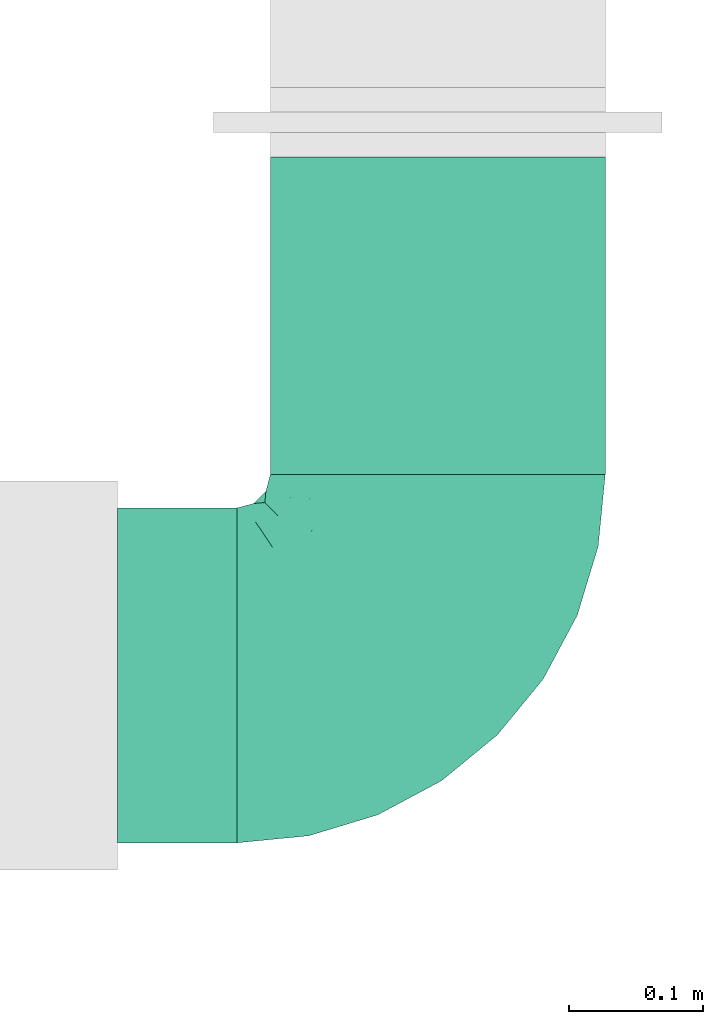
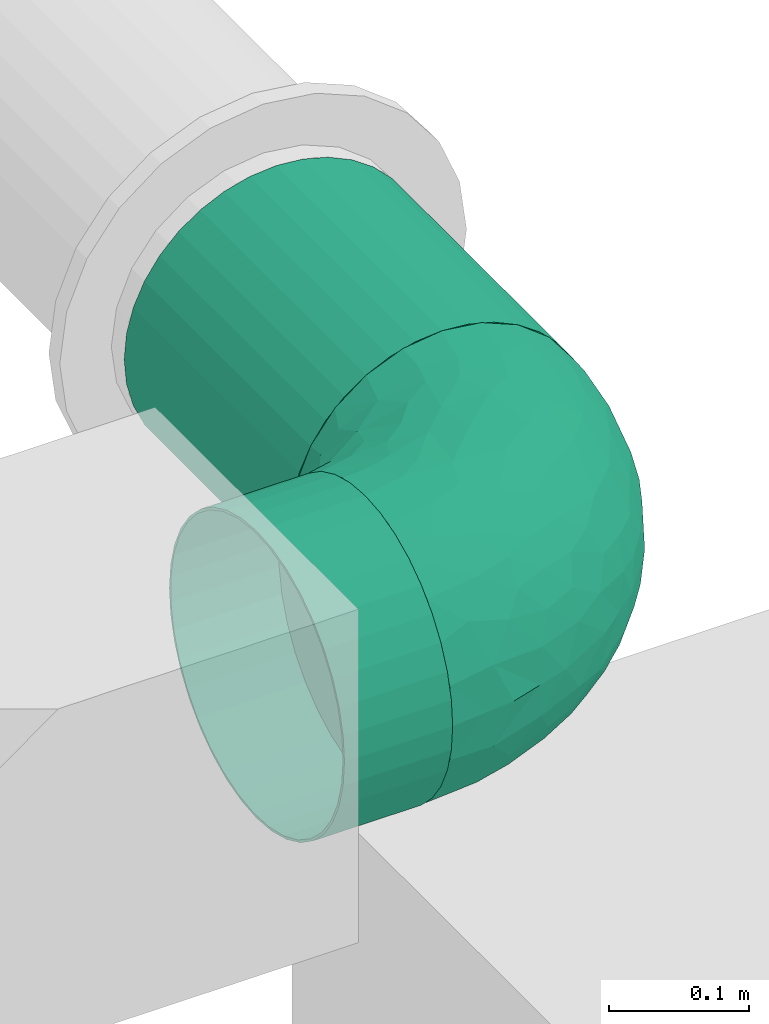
# One storey, part 16 of 31: 2 flow segments, 1 flow fitting.
"""IFC2X3 building model written with IfcOpenShell, lengths in millimetres."""

from ifc_helpers import new_model, entity, si_unit, converted_unit, derived_unit, direction, frame, origin_with_axes, origin_2d_with_axis, place, context, subcontext, project, spatial, hollow_circle, extrude, open_shell, surface_model, source, transform, mapped, type_object, element, save


model = new_model("IFC2X3")

# Units and contexts
model_context = context("Model", 3, precision=0.01, world=frame((0.0, 4.29681676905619e-09, 0.0)), true_north=direction((4.01073788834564e-13, 1.0)))
plan_context = context("Plan", 3, precision=0.01, world=frame((0.0, 4.29681676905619e-09, 0.0)), true_north=direction((4.01073788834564e-13, 1.0)))
body_context = subcontext(model_context, "Body", "Model", "MODEL_VIEW")
ifc_project = project(units=[converted_unit("PLANEANGLEUNIT", "DEGREE", entity("IfcPositiveLengthMeasure", 0.0174532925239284), si_unit("PLANEANGLEUNIT", "RADIAN"), dimensions=[0, 0, 0, 0, 0, 0, 0]), si_unit("AREAUNIT", "SQUARE_METRE"), si_unit("LENGTHUNIT", "METRE", prefix="MILLI"), si_unit("MASSUNIT", "GRAM", prefix="KILO"), si_unit("POWERUNIT", "WATT"), si_unit("PRESSUREUNIT", "PASCAL", prefix="KILO"), si_unit("FORCEUNIT", "NEWTON", prefix="KILO"), si_unit("ELECTRICVOLTAGEUNIT", "VOLT"), si_unit("ELECTRICCURRENTUNIT", "AMPERE"), si_unit("THERMODYNAMICTEMPERATUREUNIT", "DEGREE_CELSIUS"), si_unit("TIMEUNIT", "SECOND"), si_unit("VOLUMEUNIT", "CUBIC_METRE"), derived_unit("LINEARVELOCITYUNIT", [(si_unit("LENGTHUNIT", "METRE"), 1), (si_unit("TIMEUNIT", "SECOND"), -1)]), derived_unit("VOLUMETRICFLOWRATEUNIT", [(si_unit("VOLUMEUNIT", "CUBIC_METRE"), 1), (si_unit("TIMEUNIT", "SECOND"), -1)]), derived_unit("THERMALTRANSMITTANCEUNIT", [(si_unit("POWERUNIT", "WATT"), 1), (si_unit("THERMODYNAMICTEMPERATUREUNIT", "KELVIN"), -1), (si_unit("AREAUNIT", "SQUARE_METRE"), -1)]), derived_unit("SOUNDPRESSUREUNIT", [(si_unit("PRESSUREUNIT", "PASCAL"), 1)])], contexts=[model_context, plan_context])

# Site, building, storey
site_placement = place(None, frame((0.0, -4.29681676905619e-09, 0.0), z_axis=(0.0, 0.0, 1.0), x_axis=(1.0, 0.0, 0.0)))
site = spatial("IfcSite", under=ifc_project, at=site_placement, CompositionType="ELEMENT")
building_placement = place(site_placement, frame((0.0, 4.29681676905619e-09, 0.0), z_axis=(0.0, 0.0, 1.0), x_axis=(1.0, 0.0, 0.0)))
building = spatial("IfcBuilding", under=site, at=building_placement, Name="mc-building", CompositionType="ELEMENT")
storey_placement = place(building_placement, frame((0.0, 0.0, 210900.0), z_axis=(0.0, 0.0, 1.0), x_axis=(1.0, 0.0, 0.0)))
storey = spatial("IfcBuildingStorey", under=building, at=storey_placement, Name="Nivå F", CompositionType="ELEMENT", Elevation=210900.0)

# Flow fitting
duct_fitting_type = type_object("IfcDuctFittingType", Name="magicirc_elbow_short_001", PredefinedType="BEND")
shared_shape_1 = source(origin_with_axes(), body_context, "Body", "SurfaceModel", [
    surface_model("IfcShellBasedSurfaceModel", [(-150.0, 0.0, -125.0), (-150.0, -32.35238, -120.74073), (-150.0, 32.35238, -120.74073), (-150.0, 62.5, -108.25318), (-150.0, 88.38835, -88.38835), (-150.0, 108.25318, -62.5), (-150.0, 120.74073, -32.35238), (-150.0, -62.5, -108.25318), (-150.0, -88.38835, -88.38835), (-150.0, -125.0, 0.0), (-150.0, -108.25318, -62.5), (-150.0, -120.74073, -32.35238), (-150.0, 125.0, 0.0), (-150.0, -120.74073, 32.35238), (-150.0, 120.74073, 32.35238), (-150.0, 108.25318, 62.5), (-150.0, 32.35238, 120.74073), (-150.0, 62.5, 108.25318), (-150.0, 88.38835, 88.38835), (-150.0, -88.38835, 88.38835), (-150.0, -108.25318, 62.5), (-150.0, -32.35238, 120.74073), (-150.0, 0.0, 125.0), (-150.0, -62.5, 108.25318), (-32.35238, 150.0, -120.74073), (88.38835, 150.0, -88.38835), (0.0, 150.0, -125.0), (-88.38835, 150.0, -88.38835), (-62.5, 150.0, -108.25318), (-108.25318, 150.0, -62.5), (-120.74073, 150.0, -32.35238), (88.38835, 150.0, 88.38835), (32.35238, 150.0, -120.74073), (62.5, 150.0, -108.25318), (120.74073, 150.0, -32.35238), (108.25318, 150.0, -62.5), (125.0, 150.0, 0.0), (-125.0, 150.0, 0.0), (-120.74073, 150.0, 32.35238), (-32.35238, 150.0, 120.74073), (-108.25318, 150.0, 62.5), (-88.38835, 150.0, 88.38835), (-62.5, 150.0, 108.25318), (120.74073, 150.0, 32.35238), (108.25318, 150.0, 62.5), (62.5, 150.0, 108.25318), (0.0, 150.0, 125.0), (32.35238, 150.0, 120.74073), (3.43621, -49.5686, 72.62973), (-18.36868, -48.37229, 88.70337), (-18.83692, -66.65046, 70.44253), (-111.90441, -117.21345, 35.28889), (-118.95041, -121.94188, 0.0), (25.86906, 108.55436, 121.17479), (-75.7772, -90.32158, 72.9261), (-74.87608, -74.03385, 90.43438), (-106.18274, -83.07991, 89.59712), (-96.35016, -119.71595, 0.0), (-46.47779, 70.62109, 123.46212), (-76.11794, 76.11794, 116.41901), (-69.40624, 48.8823, 123.2752), (-124.4932, -102.85852, 69.13391), (61.55426, -23.61809, 0.0), (70.72079, -10.51336, 22.73937), (52.73629, -32.74631, 22.58023), (-124.77817, -54.06971, 111.94259), (-90.65624, -57.4337, 106.30719), (32.14495, -52.26832, 26.33949), (-0.28194, -75.27927, 33.26458), (23.61809, -61.55426, 0.0), (-95.68999, 131.65378, 83.88297), (-69.77814, 120.80048, 106.99559), (-67.0959, -108.40643, 29.86559), (-70.55611, -111.89141, 0.0), (-44.76206, -104.06687, 0.0), (-59.72745, 94.86231, 116.91683), (-108.55438, -25.86905, 121.17479), (54.06971, 124.77816, 111.94259), (-27.02672, -92.24399, 28.66038), (-115.00313, 7.3209, 124.96177), (37.68395, -37.68396, 47.97943), (-29.53309, 7.28525, 119.4722), (-3.39232, -9.52602, 105.74117), (0.96712, 29.12319, 117.22512), (-136.08989, 114.55349, 55.66419), (-123.43379, 95.73566, 87.17875), (-119.07435, 119.07435, 65.82439), (-129.09162, 129.09162, 33.48663), (-137.5, 128.34936, 0.0), (-121.4114, 69.81738, 106.84783), (-150.0, 47.42619, 114.49695), (-128.63564, 33.72653, 120.89263), (-27.58141, -83.17169, 52.68646), (-47.99632, -78.87458, 74.22581), (-54.84475, -96.13379, 51.52422), (103.28598, 90.85645, 59.18699), (90.74371, 74.5558, 71.84785), (96.43496, 48.91625, 45.66343), (-41.1276, 38.26732, 124.85571), (102.85852, 124.4932, 69.13391), (83.07991, 106.18274, 89.59712), (-94.00852, 107.9804, 96.05098), (74.96021, 76.43193, 90.06036), (117.21345, 111.90441, 35.28889), (121.94188, 118.95041, 0.0), (-47.30293, -61.16044, 91.82798), (78.87458, 47.99631, 74.22581), (76.94281, 15.76685, 52.00246), (-101.88517, 84.02177, 104.66367), (110.18665, 71.48082, 28.20521), (111.89141, 70.55611, 0.0), (55.40218, 7.25052, 74.8198), (24.63024, -24.60151, 78.91029), (58.21029, -16.89277, 44.41752), (57.4337, 90.65623, 106.30718), (30.02154, 57.30162, 113.4468), (-128.34936, 137.5, 0.0), (-73.97464, 6.61086, 124.39367), (-33.52256, 127.66016, 120.99202), (-7.19958, 114.11429, 124.96953), (-18.42999, 93.20127, 124.82066), (14.9991, 81.71173, 121.69074), (-109.70554, 132.7303, 65.99174), (-81.52168, -16.35182, 121.37252), (-56.488, -29.68334, 113.41267), (55.20354, 44.94313, 95.60044), (-90.85645, -103.28598, 59.18699), (-26.43187, -29.68413, 104.83883), (-7.20961, 68.77767, 124.18226), (30.67747, 15.69438, 99.90432), (-47.42619, 150.0, 114.49695), (-107.88822, 38.92177, 121.04182), (-96.15013, 61.71268, 115.9946), (-96.31285, 19.15333, 124.70605), (14.59493, -56.28029, 51.4962), (104.06687, 44.76206, 0.0), (102.01943, 45.4582, 23.12647), (89.00824, 19.09141, 24.82271), (119.71595, 96.35016, 0.0), (-20.99012, -91.36051, 0.0), (78.65415, -2.78181, 0.0), (91.36051, 20.99012, 0.0), (2.78181, -78.65415, 0.0), (44.45436, -44.45436, 0.0), (-38.84807, 105.96939, 121.23578), (-120.80048, 69.77814, -106.99559), (54.06971, 124.77816, -111.94259), (-90.65624, -57.4337, -106.30719), (-124.77817, -54.06971, -111.94259), (-108.55438, -25.86906, -121.17479), (-18.36869, -48.37229, -88.70338), (-18.83692, -66.65046, -70.44253), (-47.30293, -61.16045, -91.82798), (-96.31285, 19.15333, -124.70605), (-73.97463, 6.61086, -124.39367), (-115.00313, 7.3209, -124.96177), (14.9991, 81.71175, -121.69074), (25.86906, 108.55438, -121.17479), (30.02154, 57.30164, -113.44681), (-129.09162, 129.09162, -33.48663), (-95.73566, 123.43379, -87.17875), (-84.02176, 101.88516, -104.66368), (-107.9804, 94.00852, -96.05098), (-0.28194, -75.27927, -33.26458), (-131.65378, 95.68999, -83.88297), (-132.7303, 109.70554, -65.99174), (-107.88822, 38.92177, -121.04182), (-128.63564, 33.72653, -120.89263), (-119.07435, 119.07435, -65.82439), (-111.90441, -117.21345, -35.28889), (-76.11794, 76.11793, -116.41901), (-69.69403, 48.67006, -123.27304), (-95.38125, 59.83873, -116.77822), (-106.18274, -83.07991, -89.59712), (-3.39231, -9.52602, -105.74117), (24.63023, -24.60151, -78.91029), (-54.84475, -96.13379, -51.52422), (-75.7772, -90.32158, -72.9261), (-47.99632, -78.87458, -74.22581), (-124.4932, -102.85852, -69.13391), (30.67749, 15.69438, -99.9043), (0.96713, 29.12319, -117.22511), (-69.81738, 121.4114, -106.84784), (-27.02672, -92.24399, -28.66038), (-67.0959, -108.40643, -29.86559), (78.87458, 47.99631, -74.22581), (96.43495, 48.9163, -45.66349), (76.94285, 15.76686, -52.00241), (37.68395, -37.68396, -47.97943), (58.21029, -16.89277, -44.41752), (52.73629, -32.74631, -22.58023), (-48.07357, 68.7261, -123.44788), (-114.55349, 136.08989, -55.66419), (117.21345, 111.90441, -35.28889), (-7.19958, 114.11428, -124.96953), (-27.58141, -83.17169, -52.68646), (-47.42619, 150.0, -114.49695), (-33.52256, 127.66015, -120.99202), (32.14495, -52.26832, -26.33949), (14.59493, -56.28029, -51.4962), (83.07991, 106.18274, -89.59712), (102.85852, 124.4932, -69.13391), (89.00829, 19.0915, -24.82265), (70.72079, -10.51336, -22.73937), (57.4337, 90.65623, -106.30719), (110.18664, 71.4808, -28.20522), (102.0194, 45.45816, -23.12649), (-90.85645, -103.28598, -59.18699), (90.01217, 76.65037, -73.68876), (73.67235, 74.27652, -90.57836), (-29.53307, 7.28526, -119.4722), (-56.488, -29.68334, -113.41267), (-74.87608, -74.03385, -90.43438), (-81.52167, -16.35182, -121.37252), (-26.43187, -29.68413, -104.83883), (103.28598, 90.85645, -59.18699), (-18.42999, 93.20126, -124.82066), (-38.84807, 105.96939, -121.23578), (55.20355, 44.94317, -95.60045), (-150.0, 47.42619, -114.49695), (55.40223, 7.25057, -74.81978), (-61.71268, 96.15012, -115.9946), (-41.12759, 38.26731, -124.85571), (3.43621, -49.56858, -72.62973), (-7.2096, 68.77766, -124.18226)], [open_shell([[[0, 1, 2]], [[3, 2, 4]], [[1, 5, 2]], [[4, 2, 5]], [[5, 1, 6]], [[7, 8, 1]], [[9, 1, 8]], [[10, 11, 8]], [[9, 8, 11]], [[9, 6, 1]], [[9, 12, 6]], [[12, 13, 14]], [[15, 14, 16]], [[16, 17, 18]], [[15, 16, 18]], [[16, 14, 19]], [[20, 19, 13]], [[19, 14, 13]], [[21, 22, 23]], [[19, 23, 22]], [[19, 22, 16]], [[9, 13, 12]], [[24, 25, 26]], [[27, 24, 28]], [[29, 30, 24]], [[29, 24, 27]], [[24, 31, 25]], [[32, 25, 33]], [[32, 26, 25]], [[25, 34, 35]], [[34, 25, 36]], [[25, 31, 36]], [[24, 30, 37]], [[38, 31, 37]], [[39, 38, 40]], [[41, 42, 39]], [[41, 39, 40]], [[31, 38, 39]], [[43, 31, 44]], [[36, 31, 43]], [[45, 46, 47]], [[46, 45, 31]], [[39, 46, 31]], [[31, 24, 37]], [[48, 49, 50]], [[51, 13, 52]], [[53, 47, 46]], [[54, 55, 56]], [[52, 57, 51]], [[58, 59, 60]], [[20, 61, 19]], [[62, 63, 64]], [[65, 56, 66]], [[67, 68, 69]], [[41, 70, 71]], [[72, 73, 74]], [[59, 58, 75]], [[21, 76, 22]], [[77, 45, 47]], [[23, 19, 56]], [[72, 74, 78]], [[79, 16, 22]], [[76, 21, 65]], [[80, 67, 64]], [[81, 82, 83]], [[84, 85, 86]], [[87, 12, 14]], [[12, 87, 88]], [[18, 17, 89]], [[51, 20, 13]], [[18, 89, 85]], [[17, 90, 91]], [[84, 14, 15]], [[91, 90, 16]], [[92, 93, 94]], [[40, 70, 41]], [[95, 96, 97]], [[83, 98, 81]], [[44, 31, 99]], [[100, 31, 45]], [[86, 85, 101]], [[102, 96, 100]], [[103, 104, 43]], [[66, 55, 105]], [[77, 100, 45]], [[103, 43, 44]], [[97, 106, 107]], [[85, 15, 18]], [[108, 85, 89]], [[85, 84, 15]], [[103, 109, 110]], [[111, 112, 113]], [[114, 53, 115]], [[88, 87, 116]], [[60, 117, 98]], [[116, 87, 37]], [[85, 108, 101]], [[38, 37, 87]], [[71, 118, 42]], [[119, 120, 121]], [[122, 38, 87]], [[70, 122, 101]], [[123, 76, 124]], [[114, 115, 125]], [[119, 53, 46]], [[42, 41, 71]], [[77, 53, 114]], [[72, 78, 94]], [[54, 126, 94]], [[21, 23, 65]], [[124, 76, 66]], [[61, 56, 19]], [[76, 123, 79]], [[93, 105, 55]], [[124, 127, 81]], [[102, 100, 114]], [[99, 100, 95]], [[46, 39, 119]], [[115, 121, 128]], [[128, 83, 115]], [[115, 83, 129]], [[75, 101, 59]], [[118, 39, 130]], [[106, 111, 107]], [[125, 111, 106]], [[131, 89, 17]], [[108, 132, 59]], [[118, 119, 39]], [[119, 118, 120]], [[51, 57, 73]], [[61, 51, 126]], [[99, 103, 44]], [[109, 95, 97]], [[76, 79, 22]], [[133, 79, 117]], [[83, 128, 98]], [[129, 83, 82]], [[128, 120, 58]], [[59, 132, 60]], [[129, 82, 112]], [[125, 115, 129]], [[49, 112, 82]], [[80, 134, 67]], [[127, 49, 82]], [[93, 92, 50]], [[111, 125, 129]], [[125, 106, 102]], [[112, 111, 129]], [[111, 113, 107]], [[98, 117, 81]], [[124, 81, 117]], [[63, 113, 64]], [[135, 109, 136]], [[137, 97, 107]], [[97, 136, 109]], [[110, 138, 103]], [[103, 95, 109]], [[78, 74, 139]], [[73, 72, 51]], [[51, 72, 126]], [[68, 134, 50]], [[72, 94, 126]], [[92, 94, 78]], [[54, 94, 93]], [[63, 107, 113]], [[137, 140, 141]], [[68, 92, 78]], [[50, 49, 105]], [[78, 142, 68]], [[68, 142, 69]], [[67, 69, 143]], [[64, 67, 143]], [[68, 67, 134]], [[68, 50, 92]], [[48, 50, 134]], [[80, 48, 134]], [[112, 49, 48]], [[62, 140, 63]], [[80, 64, 113]], [[140, 137, 63]], [[107, 63, 137]], [[64, 143, 62]], [[113, 112, 80]], [[48, 80, 112]], [[55, 54, 93]], [[56, 126, 54]], [[93, 50, 105]], [[56, 55, 66]], [[127, 105, 49]], [[66, 105, 124]], [[132, 108, 89]], [[101, 108, 59]], [[89, 131, 132]], [[60, 98, 58]], [[132, 131, 60]], [[60, 131, 133]], [[128, 58, 98]], [[75, 58, 144]], [[144, 71, 75]], [[101, 75, 71]], [[122, 70, 40]], [[136, 141, 135]], [[71, 70, 101]], [[38, 122, 40]], [[101, 122, 86]], [[84, 87, 14]], [[122, 87, 86]], [[13, 9, 52]], [[104, 103, 138]], [[104, 36, 43]], [[87, 84, 86]], [[51, 61, 20]], [[56, 61, 126]], [[56, 65, 23]], [[76, 65, 66]], [[100, 99, 31]], [[103, 99, 95]], [[53, 77, 47]], [[100, 77, 114]], [[118, 71, 144]], [[120, 118, 144]], [[42, 118, 130]], [[79, 133, 91]], [[79, 91, 16]], [[17, 91, 131]], [[124, 117, 123]], [[79, 123, 117]], [[125, 102, 114]], [[96, 102, 106]], [[97, 96, 106]], [[100, 96, 95]], [[115, 53, 121]], [[119, 121, 53]], [[58, 120, 144]], [[121, 120, 128]], [[60, 133, 117]], [[91, 133, 131]], [[81, 127, 82]], [[105, 127, 124]], [[97, 137, 136]], [[141, 136, 137]], [[109, 135, 110]], [[139, 142, 78]], [[4, 145, 3]], [[32, 33, 146]], [[147, 148, 149]], [[150, 151, 152]], [[153, 154, 155]], [[156, 157, 158]], [[88, 159, 12]], [[160, 161, 162]], [[159, 6, 12]], [[142, 163, 69]], [[162, 164, 165]], [[3, 166, 167]], [[168, 160, 162]], [[159, 165, 6]], [[10, 169, 11]], [[169, 52, 11]], [[170, 171, 172]], [[7, 148, 173]], [[174, 175, 150]], [[176, 177, 178]], [[149, 1, 0]], [[34, 36, 104]], [[10, 8, 179]], [[180, 174, 181]], [[161, 160, 182]], [[183, 74, 184]], [[8, 7, 173]], [[185, 186, 187]], [[188, 189, 190]], [[159, 88, 116]], [[155, 149, 0]], [[37, 30, 159]], [[171, 170, 191]], [[192, 30, 29]], [[193, 35, 34]], [[4, 164, 145]], [[192, 160, 168]], [[24, 26, 194]], [[148, 7, 1]], [[155, 0, 2]], [[157, 194, 26]], [[163, 183, 195]], [[196, 24, 197]], [[198, 163, 199]], [[182, 160, 27]], [[160, 29, 27]], [[200, 33, 25]], [[35, 201, 25]], [[187, 186, 202]], [[203, 62, 190]], [[32, 146, 157]], [[200, 204, 146]], [[205, 135, 206]], [[184, 169, 207]], [[104, 138, 193]], [[34, 104, 193]], [[27, 28, 182]], [[183, 142, 139]], [[32, 157, 26]], [[200, 208, 209]], [[210, 181, 174]], [[147, 149, 211]], [[177, 212, 178]], [[37, 159, 116]], [[179, 173, 207]], [[5, 164, 4]], [[211, 213, 154]], [[210, 211, 154]], [[214, 174, 150]], [[201, 200, 25]], [[208, 200, 215]], [[158, 157, 204]], [[216, 217, 197]], [[204, 209, 218]], [[172, 162, 170]], [[167, 2, 219]], [[180, 175, 174]], [[187, 189, 220]], [[182, 28, 197]], [[161, 221, 170]], [[194, 157, 156]], [[28, 196, 197]], [[179, 169, 10]], [[169, 73, 57]], [[193, 110, 205]], [[201, 193, 215]], [[2, 167, 155]], [[155, 154, 213]], [[180, 181, 158]], [[181, 210, 222]], [[154, 153, 171]], [[170, 221, 191]], [[158, 218, 180]], [[180, 218, 220]], [[175, 180, 220]], [[195, 178, 151]], [[151, 223, 199]], [[212, 152, 178]], [[204, 218, 158]], [[185, 187, 220]], [[185, 220, 218]], [[175, 220, 189]], [[210, 174, 214]], [[154, 222, 210]], [[208, 186, 185]], [[187, 202, 203]], [[205, 186, 215]], [[206, 141, 202]], [[215, 193, 205]], [[169, 184, 73]], [[74, 73, 184]], [[184, 176, 183]], [[176, 184, 207]], [[183, 176, 195]], [[177, 176, 207]], [[195, 176, 178]], [[206, 186, 205]], [[207, 173, 177]], [[178, 152, 151]], [[195, 151, 163]], [[69, 163, 198]], [[142, 183, 163]], [[69, 198, 143]], [[188, 198, 199]], [[190, 143, 198]], [[223, 151, 150]], [[163, 151, 199]], [[150, 175, 223]], [[188, 223, 175]], [[223, 188, 199]], [[175, 189, 188]], [[188, 190, 198]], [[190, 189, 203]], [[187, 203, 189]], [[202, 140, 203]], [[62, 203, 140]], [[62, 143, 190]], [[212, 173, 147]], [[173, 212, 177]], [[147, 211, 152]], [[147, 152, 212]], [[214, 152, 211]], [[221, 161, 182]], [[162, 161, 170]], [[182, 217, 221]], [[191, 222, 171]], [[221, 217, 191]], [[191, 217, 216]], [[154, 171, 222]], [[172, 166, 145]], [[166, 172, 171]], [[162, 172, 145]], [[165, 164, 5]], [[141, 140, 202]], [[145, 164, 162]], [[6, 165, 5]], [[162, 165, 168]], [[192, 159, 30]], [[165, 159, 168]], [[52, 169, 57]], [[52, 9, 11]], [[160, 192, 29]], [[159, 192, 168]], [[173, 179, 8]], [[169, 179, 207]], [[149, 148, 1]], [[173, 148, 147]], [[193, 201, 35]], [[200, 201, 215]], [[200, 146, 33]], [[157, 146, 204]], [[217, 182, 197]], [[24, 194, 197]], [[216, 197, 194]], [[166, 3, 145]], [[3, 167, 219]], [[167, 166, 153]], [[211, 149, 213]], [[155, 213, 149]], [[186, 208, 215]], [[209, 208, 185]], [[218, 209, 185]], [[200, 209, 204]], [[156, 216, 194]], [[167, 153, 155]], [[171, 153, 166]], [[152, 214, 150]], [[210, 214, 211]], [[141, 206, 135]], [[202, 186, 206]], [[110, 193, 138]], [[110, 135, 205]], [[74, 183, 139]], [[191, 224, 222]], [[181, 222, 224]], [[181, 224, 158]], [[158, 224, 156]], [[156, 224, 216]], [[191, 216, 224]]])]),
])
flow_fitting_placement = place(storey_placement, frame((724493.89393, 437405.213, 3855.0), z_axis=(0.0, 0.0, 1.0), x_axis=(1.0, 0.0, 0.0)))
element("IfcFlowFitting", 1, at=flow_fitting_placement, inside=storey, type_object=duct_fitting_type, Name="magicirc_elbow_short_001", context=body_context, shape_type="MappedRepresentation", body=[
    mapped(shared_shape_1, transform((0.0, 0.0, 0.0), scale=1.0)),
])

# Flow segments
duct_segment_type = type_object("IfcDuctSegmentType", Name="KK001T - Spiro kanaler, Forsinket stål", PredefinedType="RIGIDSEGMENT")
shared_shape_2 = source(origin_with_axes(), body_context, "Body", "SweptSolid", [
    extrude(hollow_circle(Radius=125.0, WallThickness=2.0, at=origin_2d_with_axis()), frame((0.0, 0.0, 0.0), z_axis=(1.0, 0.0, 0.0), x_axis=(0.0, 1.0, 0.0)), (0.0, 0.0, 1.0), 236.9),
])
flow_segment_1_placement = place(storey_placement, frame((724493.89393, 437555.213, 3855.0), z_axis=(0.0, 0.0, 1.0), x_axis=(0.0, 1.0, 0.0)))
element("IfcFlowSegment", 2, at=flow_segment_1_placement, inside=storey, type_object=duct_segment_type, Name="KK001T - Spiro kanaler, Forsinket stål", context=body_context, shape_type="MappedRepresentation", body=[
    mapped(shared_shape_2, transform((0.0, 0.0, 0.0), scale=1.0)),
])
shared_shape_3 = source(origin_with_axes(), body_context, "Body", "SweptSolid", [
    extrude(hollow_circle(Radius=125.0, WallThickness=2.0, at=origin_2d_with_axis()), frame((0.0, 0.0, 0.0), z_axis=(1.0, 0.0, 0.0), x_axis=(0.0, 1.0, 0.0)), (0.0, 0.0, 1.0), 89.1),
])
flow_segment_2_placement = place(storey_placement, frame((724343.89393, 437405.213, 3855.0), z_axis=(0.0, 0.0, 1.0), x_axis=(-1.0, 0.0, 0.0)))
element("IfcFlowSegment", 3, at=flow_segment_2_placement, inside=storey, type_object=duct_segment_type, Name="KK001T - Spiro kanaler, Forsinket stål", context=body_context, shape_type="MappedRepresentation", body=[
    mapped(shared_shape_3, transform((0.0, 0.0, 0.0), scale=1.0)),
])

save(model, "model.ifc")
